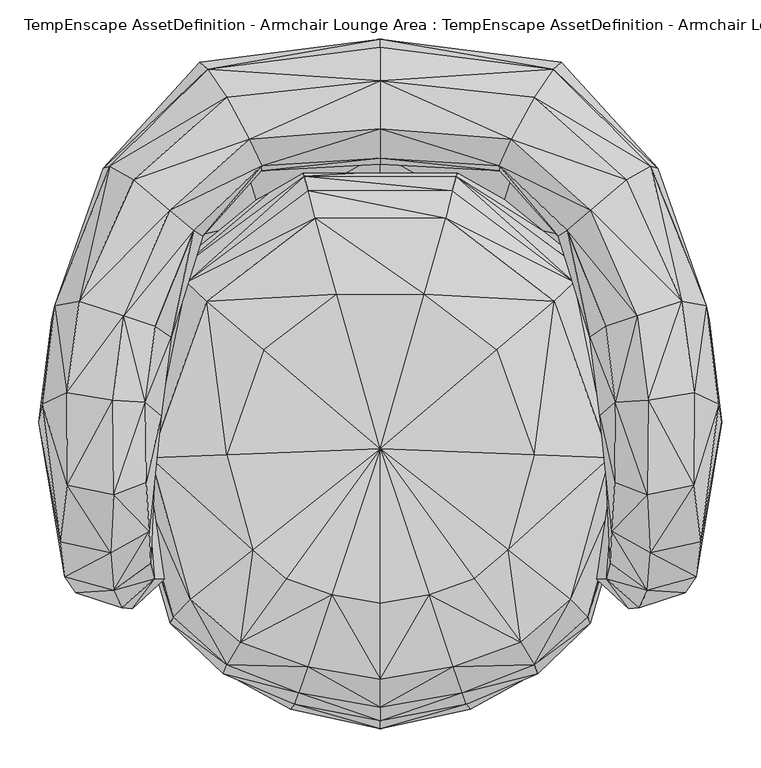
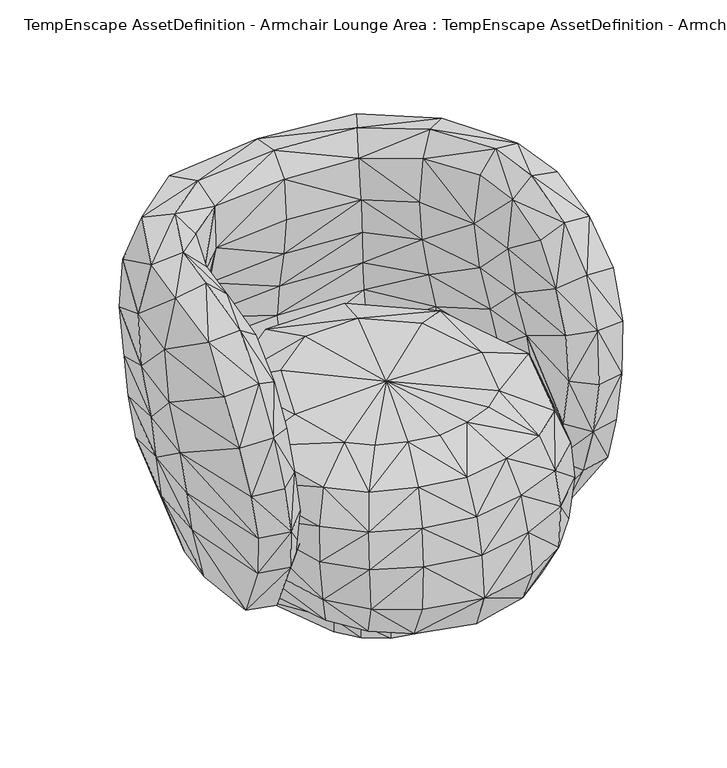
"""IFC4 building model written with IfcOpenShell, lengths in millimetres: geographic element geometry, TempEnscape AssetDefinition - Armchair Lounge Area : TempEnscape AssetDefinition - Armchair Lounge Area."""

from ifc_helpers import new_model, si_unit, origin, place, context, project, spatial, faceted_brep, source, transform, mapped, element, save


def tempenscape_assetdefinition_armchair_lounge_area_tempenscape_c0352a05(model_context):
    return source(origin(), model_context, "Body", "Brep", [
        faceted_brep([(-196.9545931, 337.3864889, 668.2319045), (-346.8486071, 248.8371581, 587.880373), (-316.0502315, 231.6333205, 680.9622645), (-221.6481864, 373.1434643, 578.4212351), (-386.3244355, 75.6589547, 694.4933534), (-417.3946679, 69.7303563, 599.1430283), (-355.6102514, 246.0772395, 486.1332476), (-167.9404676, 283.377409, 679.3903708), (-269.8433697, 192.4986392, 696.0799694), (0.0, 358.2825959, 668.172121), (0.0, 297.0780432, 679.8903942), (-152.1718502, 249.4930923, 637.6020908), (-329.2436302, 57.0136644, 713.4082317), (-239.5716906, 166.807279, 656.6951275), (-227.6556194, 158.8807255, 568.0401325), (-152.9464275, 242.7470237, 549.4639277), (0.0, 259.3765259, 638.397634), (-268.3923244, 29.9077444, 583.8713646), (-288.8321579, 43.5275547, 676.4858365), (-234.390378, 161.5317017, 480.5187881), (-301.3043404, -53.9618321, 677.538991), (-281.1064124, -71.1656809, 585.7532024), (-272.8071511, 17.7754816, 491.8729067), (-300.3653884, -156.550169, 649.0471363), (-341.8129683, -172.28809, 683.3614111), (-343.3610201, -51.1840433, 714.5060897), (-296.6001034, -218.9289033, 580.8026791), (-286.53723, -88.3851722, 494.1263497), (-401.4702737, -160.4064852, 669.8282957), (-346.0843861, -247.0093966, 610.0180745), (-402.1124542, -41.3698964, 696.1961389), (-433.827579, -56.5939881, 602.7483344), (-410.5654955, -232.4606031, 595.3873992), (-437.7622902, -79.4771388, 499.6626675), (-421.4837849, 51.7561175, 495.7776964), (-352.0396948, 233.1118286, 382.2808862), (-411.7038846, 32.0957713, 390.8089399), (-426.0258079, -99.3991047, 394.4884241), (-404.5842588, -277.2355974, 505.2070618), (-390.8248842, -298.2207239, 405.2927792), (-342.1734273, -294.8578894, 517.142415), (-377.9302835, -300.1900315, 308.8185191), (-416.809082, -105.9082374, 305.9604764), (-406.027317, 22.9594689, 304.0519357), (-318.3839619, -318.133235, 314.1866922), (-331.8604231, -317.0298934, 413.6252999), (-369.1516221, -282.9599082, 218.0586159), (-401.1862874, -100.3911197, 215.5187428), (-338.981539, -186.8492216, 66.0107955), (-309.3025088, -300.1683652, 220.3525901), (-350.7362902, -55.8582358, 66.0196841), (-395.3225017, 21.0513063, 214.0581757), (-277.2811949, -193.0854321, 59.8884076), (-289.3754244, -60.3643917, 56.1277606), (-269.2916691, -264.6254599, 237.0523661), (-241.9365793, -173.6813188, 98.84087), (-253.0501187, -63.3991137, 98.7225249), (-341.9030607, 32.2001129, 66.0275891), (-281.720072, 16.5644363, 55.59377), (-341.3396776, 210.8695209, 211.0582888), (-291.3608551, 164.1287357, 65.3905869), (-241.1468327, 127.1587759, 61.0851683), (-214.3957466, 109.2299372, 107.0127189), (-246.4064956, 6.2722387, 98.4993428), (-166.1465317, 202.0102143, 67.1135783), (-151.0189772, 179.1970581, 116.039753), (-199.4324774, 254.6373904, 64.7190586), (8.25e-05, 274.4780481, 64.5871684), (8.25e-05, 212.2724503, 68.2982504), (-227.1443605, 342.4234092, 208.7578624), (8.25e-05, 360.8736694, 208.5314542), (199.4326264, 254.6373308, 64.7191182), (166.1466956, 202.0101547, 67.1136454), (8.25e-05, 185.9469563, 117.7959442), (151.0191113, 179.1969985, 116.0398126), (291.3609445, 164.1286165, 65.3906614), (241.1470115, 127.1586865, 61.0852502), (341.3398266, 210.8694017, 211.0583931), (227.1445245, 342.4233198, 208.7579519), (341.9031799, 32.2000012, 66.0276785), (214.3958211, 109.2298403, 107.0127785), (281.720221, 16.5643431, 55.5938631), (395.3225017, 21.0511703, 214.0583098), (350.7362902, -55.8583587, 66.0198033), (289.375484, -60.3644922, 56.1278649), (246.4065701, 6.272146, 98.4994248), (253.0501187, -63.3992031, 98.7226069), (338.981539, -186.8493259, 66.0108998), (277.2811353, -193.0855215, 59.8885119), (401.1862874, -100.3912613, 215.518862), (406.027317, 22.9593236, 304.0520847), (416.8091416, -105.9083715, 305.9606254), (369.1515923, -282.9600275, 218.0587351), (309.302479, -300.1684844, 220.3526646), (377.9301643, -300.1901507, 308.8186383), (318.3837831, -318.133384, 314.1867816), (426.0258675, -99.3992463, 394.4885433), (390.8246756, -298.2208431, 405.2928984), (404.58408, -277.2357166, 505.2072406), (437.7622008, -79.4772804, 499.6628165), (411.7039144, 32.0956297, 390.8090591), (331.8601847, -317.0300424, 413.6253893), (342.1732485, -294.8580086, 517.1424747), (346.0842371, -247.0094562, 610.0181341), (410.5653465, -232.4607223, 595.387578), (289.3913686, -279.8647881, 413.2038951), (294.4100201, -259.8316967, 500.9672642), (296.5999246, -218.9290226, 580.8027387), (303.4040034, -101.1949927, 401.5479088), (277.4247527, -280.4062963, 322.8224814), (286.5371108, -88.385269, 494.1264391), (314.5274818, -104.950197, 320.7653761), (304.0594459, 2.4950223, 318.5707629), (289.8590267, 8.0743693, 399.3495107), (269.2916095, -264.6255493, 237.0524406), (300.2246916, -99.6430293, 237.3163998), (241.9365793, -173.6813933, 98.8409519), (294.9234843, 0.8859789, 234.7238362), (259.0678036, 154.3722302, 237.9139662), (176.0210693, 259.560287, 243.2404906), (265.9706771, 165.8932716, 316.9598877), (4.12e-05, 264.7183239, 246.2551892), (180.0978631, 278.5648704, 317.1242774), (251.1321604, 166.6209251, 393.173486), (172.5383848, 270.4398036, 384.724915), (4.12e-05, 285.2784693, 319.5027709), (234.3903184, 161.5316123, 480.5188775), (272.8072107, 17.7753791, 491.8730259), (281.1062932, -71.1657926, 585.753262), (268.3923542, 29.9076512, 583.8714838), (300.3652394, -156.5502733, 649.0471959), (301.3042212, -53.9619364, 677.5390506), (288.8320386, 43.5274504, 676.4858961), (239.571631, 166.8072045, 656.6952467), (227.6555598, 158.8806361, 568.0402517), (341.8128192, -172.2881794, 683.3614707), (343.3608413, -51.1841662, 714.5062685), (329.2434514, 57.0135415, 713.4082913), (401.4701247, -160.4066342, 669.8284149), (402.112335, -41.3700342, 696.1962581), (386.3243163, 75.6588206, 694.4934726), (269.8433399, 192.4985349, 696.080029), (346.8486071, 248.837024, 587.8804922), (316.0502315, 231.6332012, 680.9623241), (417.3946679, 69.7302148, 599.1431475), (433.8274896, -56.5941222, 602.7484536), (421.4838445, 51.7559722, 495.7778156), (355.6101918, 246.0770905, 486.1333966), (352.0396948, 233.1117094, 382.2810054), (232.4698269, 374.4820058, 375.7527769), (231.6818684, 382.4197352, 478.7164032), (221.6482311, 373.1434345, 578.4212947), (231.4237803, 364.1681075, 294.7262228), (349.3323624, 223.8847315, 298.8756001), (8.25e-05, 385.6881261, 294.8542535), (-231.4236313, 364.1681969, 294.7261631), (-232.4697524, 374.4820952, 375.7527173), (4.12e-05, 400.4850984, 375.5483329), (-349.332273, 223.8848507, 298.8755107), (-231.6818237, 382.4198246, 478.7163138), (4.12e-05, 411.9495749, 478.2628417), (4.12e-05, 401.6537964, 578.0528188), (196.954608, 337.3863995, 668.2319641), (167.9404378, 283.3773494, 679.3903708), (152.1718502, 249.4930327, 637.6021504), (152.9464424, 242.7469194, 549.4639874), (0.0, 251.0905862, 552.4539948), (-161.2472832, 253.7248135, 466.9434726), (0.0, 261.4398897, 470.4430699), (161.2473726, 253.7247241, 466.9435024), (4.12e-05, 277.7388394, 388.4701729), (-172.5382656, 270.439893, 384.7248852), (-251.1321902, 166.6210145, 393.1733668), (-180.0977588, 278.56493, 317.1242476), (-176.020965, 259.5603466, 243.240431), (-259.067744, 154.3723345, 237.9138619), (-265.9706473, 165.8933461, 316.9597983), (-294.9234843, 0.8860717, 234.7237468), (-304.0595055, 2.4951254, 318.5706437), (-300.2246916, -99.6429324, 237.3162955), (-303.4040928, -101.1948958, 401.5477896), (-314.5274818, -104.9501002, 320.7652569), (-289.8589671, 8.0744829, 399.3494213), (-277.4248123, -280.4062068, 322.822392), (-289.391458, -279.8646688, 413.2038355), (-294.4100797, -259.8316073, 500.9672046)], [[[0, 1, 2]], [[1, 0, 3]], [[4, 1, 5]], [[1, 4, 2]], [[3, 6, 1]], [[6, 5, 1]], [[7, 2, 8]], [[2, 7, 0]], [[4, 8, 2]], [[9, 3, 0]], [[7, 9, 0]], [[9, 7, 10]], [[8, 11, 7]], [[11, 10, 7]], [[8, 4, 12]], [[11, 8, 13]], [[12, 13, 8]], [[14, 11, 13]], [[11, 14, 15]], [[15, 16, 11]], [[10, 11, 16]], [[13, 17, 14]], [[17, 13, 18]], [[13, 12, 18]], [[19, 15, 14]], [[17, 19, 14]], [[17, 20, 21]], [[20, 17, 18]], [[21, 22, 17]], [[19, 17, 22]], [[12, 20, 18]], [[23, 21, 20]], [[20, 24, 23]], [[24, 20, 25]], [[20, 12, 25]], [[21, 23, 26]], [[26, 27, 21]], [[22, 21, 27]], [[24, 26, 23]], [[28, 29, 24]], [[25, 28, 24]], [[26, 24, 29]], [[28, 25, 30]], [[12, 30, 25]], [[30, 12, 4]], [[31, 28, 30]], [[30, 5, 31]], [[5, 30, 4]], [[28, 31, 32]], [[29, 28, 32]], [[33, 32, 31]], [[34, 31, 5]], [[31, 34, 33]], [[5, 6, 34]], [[34, 35, 36]], [[35, 34, 6]], [[36, 33, 34]], [[37, 38, 33]], [[32, 33, 38]], [[33, 36, 37]], [[38, 29, 32]], [[38, 37, 39]], [[29, 38, 40]], [[39, 40, 38]], [[37, 41, 39]], [[41, 37, 42]], [[43, 37, 36]], [[37, 43, 42]], [[44, 39, 41]], [[39, 44, 45]], [[40, 39, 45]], [[42, 46, 41]], [[46, 44, 41]], [[46, 42, 47]], [[43, 47, 42]], [[47, 48, 46]], [[48, 49, 46]], [[44, 46, 49]], [[48, 47, 50]], [[51, 50, 47]], [[47, 43, 51]], [[49, 48, 52]], [[53, 48, 50]], [[48, 53, 52]], [[54, 44, 49]], [[52, 54, 49]], [[54, 52, 55]], [[52, 56, 55]], [[56, 52, 53]], [[53, 57, 58]], [[57, 53, 50]], [[58, 56, 53]], [[50, 51, 57]], [[43, 59, 51]], [[59, 57, 51]], [[57, 59, 60]], [[61, 57, 60]], [[57, 61, 58]], [[58, 62, 63]], [[62, 58, 61]], [[56, 58, 63]], [[60, 64, 61]], [[61, 65, 62]], [[65, 61, 64]], [[59, 66, 60]], [[64, 60, 66]], [[64, 67, 68]], [[67, 64, 66]], [[68, 65, 64]], [[66, 59, 69]], [[66, 70, 67]], [[70, 66, 69]], [[70, 71, 67]], [[72, 67, 71]], [[67, 72, 68]], [[65, 68, 73]], [[74, 68, 72]], [[68, 74, 73]], [[72, 75, 76]], [[75, 72, 71]], [[76, 74, 72]], [[71, 77, 75]], [[77, 71, 78]], [[71, 70, 78]], [[77, 79, 75]], [[79, 76, 75]], [[74, 76, 80]], [[81, 80, 76]], [[76, 79, 81]], [[82, 83, 79]], [[79, 84, 81]], [[84, 79, 83]], [[79, 77, 82]], [[80, 81, 85]], [[86, 81, 84]], [[81, 86, 85]], [[84, 87, 88]], [[87, 84, 83]], [[88, 86, 84]], [[89, 87, 83]], [[83, 82, 89]], [[77, 90, 82]], [[90, 89, 82]], [[91, 92, 89]], [[87, 89, 92]], [[89, 90, 91]], [[93, 87, 92]], [[87, 93, 88]], [[92, 91, 94]], [[92, 95, 93]], [[95, 92, 94]], [[96, 94, 91]], [[90, 96, 91]], [[97, 95, 94]], [[94, 96, 97]], [[98, 96, 99]], [[96, 98, 97]], [[100, 99, 96]], [[96, 90, 100]], [[95, 97, 101]], [[97, 102, 101]], [[102, 97, 98]], [[98, 103, 102]], [[103, 98, 104]], [[99, 104, 98]], [[105, 102, 106]], [[102, 105, 101]], [[107, 102, 103]], [[102, 107, 106]], [[105, 95, 101]], [[108, 109, 105]], [[106, 108, 105]], [[95, 105, 109]], [[107, 110, 106]], [[108, 106, 110]], [[109, 108, 111]], [[112, 108, 113]], [[108, 112, 111]], [[110, 113, 108]], [[114, 95, 109]], [[111, 114, 109]], [[95, 114, 93]], [[115, 116, 114]], [[114, 88, 93]], [[88, 114, 116]], [[114, 111, 115]], [[112, 115, 111]], [[116, 115, 86]], [[117, 86, 115]], [[115, 112, 117]], [[86, 88, 116]], [[86, 117, 85]], [[117, 80, 85]], [[80, 117, 118]], [[112, 118, 117]], [[118, 74, 80]], [[74, 118, 119]], [[120, 119, 118]], [[118, 112, 120]], [[121, 74, 119]], [[74, 121, 73]], [[119, 120, 122]], [[122, 121, 119]], [[123, 122, 120]], [[120, 113, 123]], [[113, 120, 112]], [[122, 123, 124]], [[124, 125, 122]], [[121, 122, 125]], [[126, 124, 123]], [[127, 123, 113]], [[123, 127, 126]], [[113, 110, 127]], [[127, 128, 129]], [[128, 127, 110]], [[129, 126, 127]], [[110, 107, 128]], [[130, 128, 107]], [[128, 130, 131]], [[131, 129, 128]], [[129, 131, 132]], [[129, 133, 134]], [[133, 129, 132]], [[126, 129, 134]], [[131, 135, 136]], [[135, 131, 130]], [[131, 137, 132]], [[137, 131, 136]], [[107, 135, 130]], [[135, 107, 103]], [[103, 138, 135]], [[138, 136, 135]], [[136, 138, 139]], [[140, 136, 139]], [[136, 140, 137]], [[140, 141, 137]], [[133, 137, 141]], [[137, 133, 132]], [[140, 142, 143]], [[142, 140, 144]], [[141, 140, 143]], [[139, 144, 140]], [[138, 145, 139]], [[144, 139, 145]], [[145, 138, 104]], [[138, 103, 104]], [[104, 99, 145]], [[146, 145, 99]], [[145, 146, 144]], [[144, 147, 142]], [[147, 144, 146]], [[146, 148, 147]], [[148, 146, 100]], [[99, 100, 146]], [[147, 149, 150]], [[149, 147, 148]], [[147, 151, 142]], [[151, 147, 150]], [[148, 152, 149]], [[152, 148, 153]], [[100, 153, 148]], [[153, 100, 90]], [[153, 78, 152]], [[78, 153, 77]], [[90, 77, 153]], [[152, 70, 154]], [[70, 152, 78]], [[154, 149, 152]], [[70, 155, 154]], [[155, 70, 69]], [[154, 156, 157]], [[156, 154, 155]], [[149, 154, 157]], [[69, 158, 155]], [[155, 35, 156]], [[35, 155, 158]], [[158, 69, 59]], [[59, 43, 158]], [[158, 36, 35]], [[36, 158, 43]], [[6, 156, 35]], [[156, 6, 159]], [[6, 3, 159]], [[157, 159, 160]], [[159, 157, 156]], [[3, 160, 159]], [[3, 9, 161]], [[160, 3, 161]], [[150, 157, 160]], [[151, 160, 161]], [[160, 151, 150]], [[9, 151, 161]], [[151, 9, 162]], [[163, 9, 10]], [[9, 163, 162]], [[162, 142, 151]], [[142, 162, 143]], [[163, 143, 162]], [[143, 163, 141]], [[164, 141, 163]], [[10, 164, 163]], [[164, 10, 16]], [[134, 164, 165]], [[164, 134, 133]], [[16, 165, 164]], [[141, 164, 133]], [[16, 15, 166]], [[165, 16, 166]], [[15, 19, 167]], [[168, 15, 167]], [[15, 168, 166]], [[168, 165, 166]], [[165, 168, 169]], [[167, 170, 168]], [[170, 169, 168]], [[19, 171, 167]], [[170, 167, 171]], [[171, 19, 172]], [[22, 172, 19]], [[172, 173, 171]], [[125, 171, 173]], [[171, 125, 170]], [[125, 124, 170]], [[169, 170, 124]], [[126, 165, 169]], [[124, 126, 169]], [[165, 126, 134]], [[173, 121, 125]], [[121, 65, 73]], [[65, 121, 174]], [[121, 173, 174]], [[175, 65, 174]], [[65, 175, 62]], [[174, 176, 175]], [[176, 174, 173]], [[177, 62, 175]], [[178, 175, 176]], [[175, 178, 177]], [[62, 177, 63]], [[178, 179, 177]], [[56, 177, 179]], [[177, 56, 63]], [[178, 180, 181]], [[180, 178, 182]], [[179, 178, 181]], [[176, 182, 178]], [[179, 55, 56]], [[55, 179, 54]], [[181, 54, 179]], [[180, 183, 181]], [[54, 181, 183]], [[44, 54, 183]], [[183, 180, 184]], [[184, 44, 183]], [[44, 184, 45]], [[40, 184, 185]], [[184, 40, 45]], [[180, 185, 184]], [[27, 26, 185]], [[185, 180, 27]], [[26, 40, 185]], [[40, 26, 29]], [[182, 27, 180]], [[27, 182, 22]], [[182, 176, 172]], [[172, 22, 182]], [[173, 172, 176]], [[157, 150, 149]]]),
        faceted_brep([(-102.3754701, 225.8779854, 72.5325197), (-204.4502646, 64.3746927, 28.8998466), (-254.0200055, 118.1665584, 72.5325122), (-95.0208604, 158.5885882, 28.8998466), (-243.6864227, -97.7314711, 28.8998466), (-95.0208604, 158.5885882, 0.0), (-204.4502646, 64.3746927, 0.0), (-294.0908968, -127.5355369, 72.5325122), (-271.0877955, 126.9986331, 149.2129564), (-186.5399778, -244.6505427, 28.8998559), (-243.6864227, -97.7314711, 0.0), (0.0, -86.741969, 0.0), (95.0208604, 158.5885882, 0.0), (95.0208604, 158.5885882, 28.8998466), (204.4502646, 64.3746927, 0.0), (204.4502646, 64.3746927, 28.8998466), (243.6864227, -97.7314711, 0.0), (102.3754701, 225.8779854, 72.5325197), (254.0200055, 118.1665584, 72.5325122), (243.6864227, -97.7314711, 28.8998466), (186.5399778, -244.6505427, 0.0), (294.0908968, -127.5355369, 72.5325122), (186.5399778, -244.6505427, 28.8998559), (271.0877955, 126.9986331, 149.2129564), (232.5213403, -295.1256931, 72.5324899), (321.5612471, -133.5584819, 150.7400721), (152.0573199, -286.0634327, 28.8998559), (152.0573199, -286.0634327, 0.0), (182.6283634, -364.683032, 72.5324973), (106.1821803, -314.2910898, 28.8998559), (258.8224113, -332.2547078, 150.0592828), (197.8568435, -401.7330408, 148.9549279), (114.4006848, -413.7913585, 72.5325197), (0.0, -442.1691597, 72.5325197), (0.0, -338.6301994, 28.8998559), (106.1821803, -314.2910898, 0.0), (0.0, -338.6301994, 0.0), (-106.1821803, -314.2910898, 28.8998559), (0.0, -472.5566804, 147.3325044), (-114.4006848, -413.7913585, 72.5325197), (-152.0573199, -286.0634327, 28.8998559), (-106.1821803, -314.2910898, 0.0), (-182.6283634, -364.683032, 72.5324973), (-152.0573199, -286.0634327, 0.0), (-232.5213403, -295.1256931, 72.5324899), (-197.8568435, -401.7330408, 148.9549279), (-258.8224113, -332.2547078, 150.0592679), (-321.5612471, -133.5584819, 150.7400721), (-186.5399778, -244.6505427, 0.0), (-261.1074448, 114.7145033, 238.0572706), (-328.6197782, -131.7186654, 242.1640456), (-103.2587513, 248.4315336, 149.7374475), (-248.4349608, 100.0992432, 313.0871952), (-97.4305719, 236.2334877, 238.4487092), (-321.5837181, -128.9419532, 314.1329885), (103.2587513, 248.4315336, 149.7374475), (97.4305719, 236.2334877, 238.4487092), (261.1074448, 114.7145033, 238.0572706), (92.3445299, 217.6679671, 313.7349486), (248.4349608, 100.0992432, 313.0871952), (321.5837181, -128.9419532, 314.1329885), (328.6197782, -131.7186654, 242.1640456), (265.6696737, -328.4198046, 313.7947619), (269.2221403, -336.9645178, 240.9644723), (294.2865491, -124.9217764, 379.0852129), (243.9766675, -306.5265715, 379.8521757), (196.9105005, -390.0687993, 313.1549358), (201.3897896, -401.899606, 239.2343134), (104.6287194, -425.8723557, 312.490344), (110.1211831, -441.1283433, 237.4814749), (93.3298543, -392.7021921, 379.0862858), (179.5607805, -361.648947, 379.5541525), (163.6693776, -242.9388613, 414.02632), (62.588796, -300.6872237, 414.026469), (120.4506159, -279.8884213, 414.0264094), (0.0, -444.8310435, 312.2365475), (0.0, -408.9215994, 378.942132), (0.0, -311.5540147, 414.0265286), (0.0, -113.3445278, 414.0264392), (197.3541975, -121.10845, 414.0264094), (149.3885517, 13.3156311, 414.0264094), (222.7739394, 75.5359083, 378.973186), (83.4988058, 181.8924248, 379.6505034), (56.0097694, 84.696196, 414.026469), (-83.4988058, 181.8924248, 379.6505034), (-56.0097694, 84.696196, 414.026469), (-92.3445299, 217.6679671, 313.7349486), (-222.7739394, 75.5359083, 378.973186), (-149.3885517, 13.3156311, 414.0264094), (-294.2865491, -124.9217764, 379.0852129), (-197.3541975, -121.10845, 414.0264094), (-243.9766675, -306.5265715, 379.8521757), (-163.6693776, -242.9388613, 414.02632), (-120.4506084, -279.8884213, 414.0264094), (-179.5607805, -361.648947, 379.5541525), (-265.6696737, -328.4198046, 313.7947619), (-196.9105005, -390.0687993, 313.1549358), (-269.2221403, -336.9645178, 240.9644723), (-201.3897896, -401.899606, 239.2343134), (-104.6287194, -425.8723557, 312.490344), (-93.3298543, -392.7021921, 379.0862858), (-62.588796, -300.6872237, 414.026469), (0.0, -462.2364938, 236.7756814), (-110.1211831, -441.1283433, 237.4814749), (-115.1141748, -447.3697841, 147.8220224), (115.1141748, -447.3697841, 147.8220224)], [[[0, 1, 2]], [[1, 0, 3]], [[4, 2, 1]], [[5, 1, 3]], [[1, 5, 6]], [[6, 4, 1]], [[2, 4, 7]], [[8, 0, 2]], [[7, 8, 2]], [[9, 7, 4]], [[4, 6, 10]], [[10, 9, 4]], [[11, 6, 5]], [[11, 10, 6]], [[3, 12, 5]], [[11, 5, 12]], [[13, 14, 12]], [[12, 3, 13]], [[11, 12, 14]], [[14, 13, 15]], [[15, 16, 14]], [[11, 14, 16]], [[17, 15, 13]], [[13, 0, 17]], [[0, 13, 3]], [[15, 17, 18]], [[18, 19, 15]], [[16, 15, 19]], [[19, 20, 16]], [[11, 16, 20]], [[19, 18, 21]], [[21, 22, 19]], [[20, 19, 22]], [[17, 23, 18]], [[23, 21, 18]], [[22, 21, 24]], [[21, 23, 25]], [[25, 24, 21]], [[24, 26, 22]], [[26, 20, 22]], [[20, 26, 27]], [[11, 20, 27]], [[26, 24, 28]], [[28, 29, 26]], [[29, 27, 26]], [[24, 25, 30]], [[30, 28, 24]], [[31, 32, 28]], [[29, 28, 32]], [[28, 30, 31]], [[33, 29, 32]], [[29, 33, 34]], [[34, 35, 29]], [[27, 29, 35]], [[11, 27, 35]], [[35, 34, 36]], [[11, 35, 36]], [[33, 37, 34]], [[37, 36, 34]], [[38, 39, 33]], [[37, 33, 39]], [[32, 38, 33]], [[40, 41, 37]], [[36, 37, 41]], [[42, 37, 39]], [[37, 42, 40]], [[11, 36, 41]], [[41, 40, 43]], [[11, 41, 43]], [[44, 40, 42]], [[40, 44, 9]], [[9, 43, 40]], [[39, 45, 42]], [[42, 46, 44]], [[46, 42, 45]], [[7, 9, 44]], [[47, 44, 46]], [[44, 47, 7]], [[9, 10, 48]], [[43, 9, 48]], [[11, 43, 48]], [[11, 48, 10]], [[8, 7, 47]], [[49, 47, 50]], [[47, 49, 8]], [[46, 50, 47]], [[0, 8, 51]], [[49, 51, 8]], [[52, 53, 49]], [[49, 54, 52]], [[54, 49, 50]], [[51, 49, 53]], [[55, 0, 51]], [[53, 55, 51]], [[0, 55, 17]], [[23, 17, 55]], [[55, 53, 56]], [[56, 23, 55]], [[23, 56, 57]], [[57, 25, 23]], [[53, 58, 56]], [[56, 59, 57]], [[59, 56, 58]], [[57, 60, 61]], [[60, 57, 59]], [[25, 57, 61]], [[61, 30, 25]], [[61, 62, 63]], [[62, 61, 60]], [[30, 61, 63]], [[59, 64, 60]], [[60, 65, 62]], [[65, 60, 64]], [[66, 63, 62]], [[65, 66, 62]], [[67, 30, 63]], [[63, 66, 67]], [[30, 67, 31]], [[68, 67, 66]], [[67, 68, 69]], [[69, 31, 67]], [[70, 66, 71]], [[66, 70, 68]], [[66, 65, 71]], [[64, 72, 65]], [[72, 71, 65]], [[73, 71, 74]], [[71, 73, 70]], [[71, 72, 74]], [[70, 75, 68]], [[75, 70, 76]], [[73, 76, 70]], [[76, 73, 77]], [[78, 77, 73]], [[74, 78, 73]], [[74, 72, 78]], [[72, 79, 78]], [[72, 64, 79]], [[79, 80, 78]], [[81, 79, 64]], [[79, 81, 80]], [[64, 59, 81]], [[59, 82, 81]], [[83, 81, 82]], [[81, 83, 80]], [[80, 83, 78]], [[83, 84, 85]], [[84, 83, 82]], [[83, 85, 78]], [[82, 86, 84]], [[86, 82, 58]], [[82, 59, 58]], [[84, 52, 87]], [[52, 84, 86]], [[87, 85, 84]], [[78, 85, 88]], [[85, 87, 88]], [[52, 89, 87]], [[87, 90, 88]], [[90, 87, 89]], [[53, 52, 86]], [[89, 52, 54]], [[58, 53, 86]], [[54, 91, 89]], [[89, 92, 90]], [[92, 89, 91]], [[78, 88, 90]], [[78, 90, 92]], [[78, 92, 93]], [[94, 92, 91]], [[92, 94, 93]], [[91, 54, 95]], [[96, 91, 95]], [[91, 96, 94]], [[50, 95, 54]], [[95, 50, 97]], [[97, 96, 95]], [[98, 99, 96]], [[96, 100, 94]], [[100, 96, 99]], [[96, 97, 98]], [[94, 101, 93]], [[101, 94, 100]], [[78, 93, 101]], [[76, 101, 100]], [[101, 76, 77]], [[78, 101, 77]], [[75, 100, 99]], [[100, 75, 76]], [[99, 102, 75]], [[102, 68, 75]], [[102, 99, 103]], [[103, 38, 102]], [[68, 102, 69]], [[38, 69, 102]], [[99, 98, 103]], [[38, 103, 104]], [[45, 103, 98]], [[103, 45, 104]], [[39, 38, 104]], [[69, 38, 105]], [[38, 32, 105]], [[31, 69, 105]], [[32, 31, 105]], [[45, 39, 104]], [[98, 46, 45]], [[46, 98, 97]], [[50, 46, 97]]]),
    ])


if __name__ == "__main__":
    model = new_model("IFC4")
    model_context = context("Model", 3, world=origin())
    ifc_project = project(units=[si_unit("LENGTHUNIT", "METRE", prefix="MILLI")], contexts=[model_context])
    site = spatial("IfcSite", under=ifc_project)
    building = spatial("IfcBuilding", under=site)
    placement = place(None, origin())
    tempenscape_assetdefinition_armchair_lounge_area_tempenscape_shape = tempenscape_assetdefinition_armchair_lounge_area_tempenscape_c0352a05(model_context)
    element("IfcGeographicElement", 1, ObjectType="TempEnscape AssetDefinition - Armchair Lounge Area : TempEnscape AssetDefinition - Armchair Lounge Area", at=placement, inside=building, context=model_context, shape_type="MappedRepresentation", body=[
        mapped(tempenscape_assetdefinition_armchair_lounge_area_tempenscape_shape, transform((0.0, 0.0, 0.0), x_axis=(1.0, 0.0, 0.0), y_axis=(0.0, 1.0, 0.0), z_axis=(0.0, 0.0, 1.0))),
    ])
    save(model, "model.ifc")
